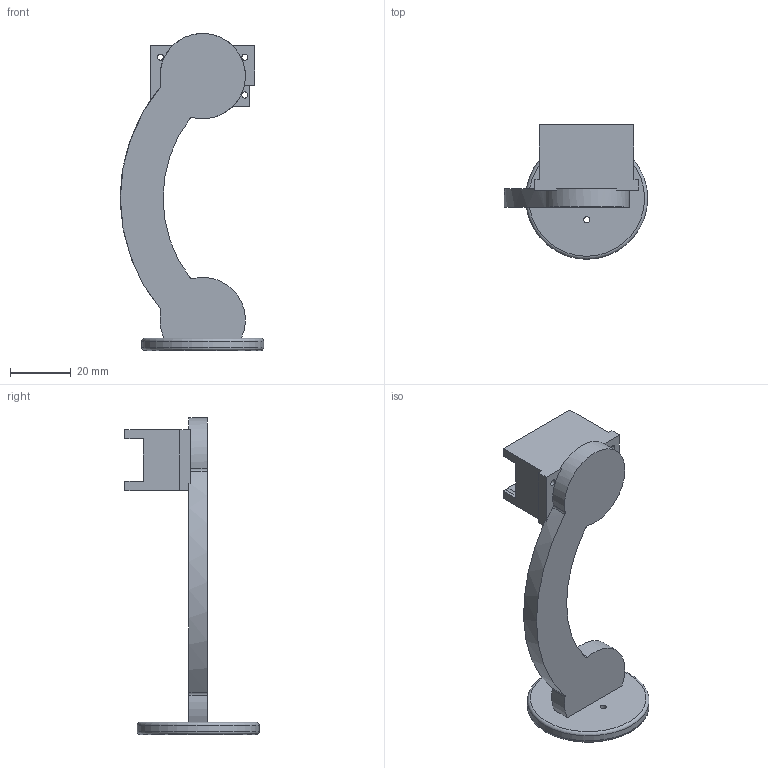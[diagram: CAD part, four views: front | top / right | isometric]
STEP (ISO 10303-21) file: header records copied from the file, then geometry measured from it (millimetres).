
FILE_DESCRIPTION(('Open CASCADE Model'),'2;1');
FILE_NAME('Open CASCADE Shape Model','2026-08-26T11:10:47',('Author'),( 'Open CASCADE'),'Open CASCADE STEP processor 7.9','Open CASCADE 7.9' ,'Unknown');
FILE_SCHEMA(('AUTOMOTIVE_DESIGN { 1 0 10303 214 1 1 1 1 }'));
Length unit declared in the file: millimetre
Products named in the file (1): Open CASCADE STEP translator 7.9 1
Bounding box: 47 x 44 x 103.98 mm (x, y, z)
Volume: 22953.1 mm3; surface area: 12337 mm2
Topology: 1 solids, 1 shells, 56 faces, 163 edges, 108 vertices
Faces by surface type: plane 35, cylinder 15, bspline 4, torus 2
Full cylindrical faces by diameter (mm): 2 x8, 3.2 x1, 40 x1
Entity records: 4265 total; most frequent: CARTESIAN_POINT 1194, DIRECTION 508, ORIENTED_EDGE 326, PCURVE 326, DEFINITIONAL_REPRESENTATION 326, LINE 271, VECTOR 271, EDGE_CURVE 163
